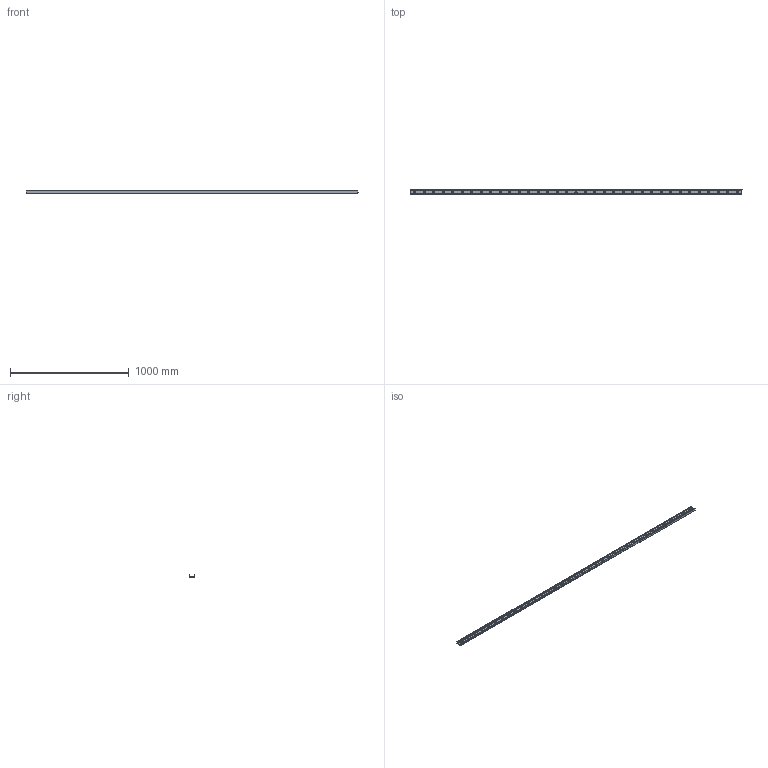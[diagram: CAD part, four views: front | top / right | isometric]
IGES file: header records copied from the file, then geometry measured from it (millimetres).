
Start section: SolidWorks IGES file using analytic representation for surfaces
Global section: file name: C:\Users\IanO\Desktop\43\L1943.ULV43_v2_20180121_IGES\L1943.ULV43-2800.igs; native system: SolidWorks 2017; preprocessor: SolidWorks 2017; author: IanO; date: 190121.090412; units: millimetre
Bounding box: 2800 x 43 x 21 mm (x, y, z)
Surface area: 434479.3 mm2 (no closed solid volume)
Topology: 0 solids, 0 shells, 166 faces, 3094 edges, 3094 vertices
Faces by surface type: revolution 153, bspline 13
